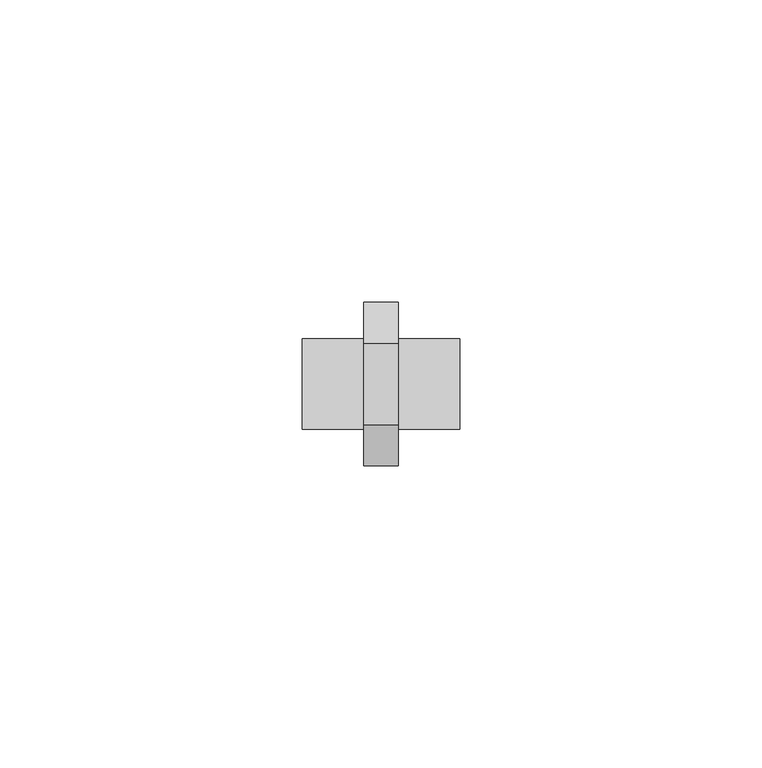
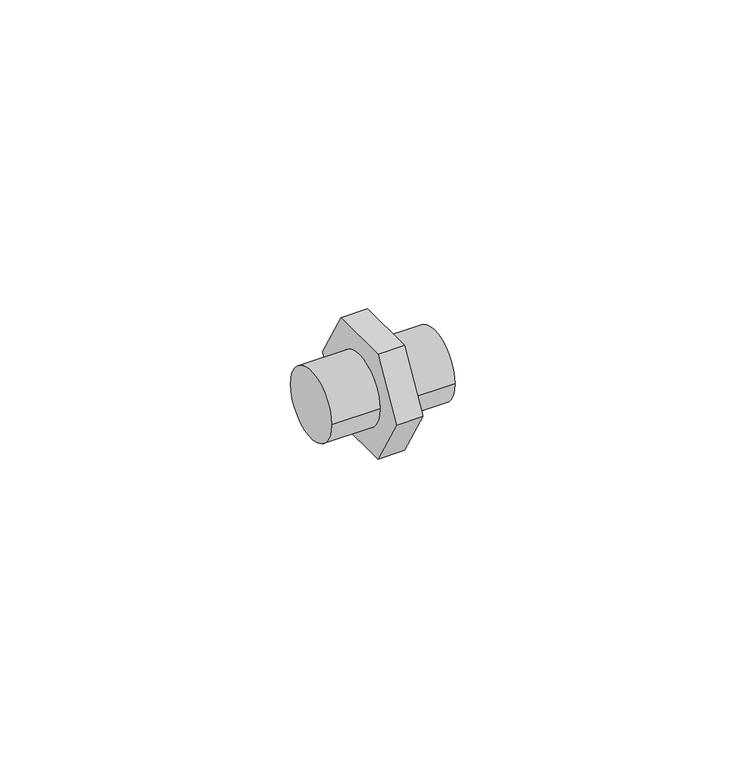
"""IFC4 building model written with IfcOpenShell, lengths in millimetres: pipe fitting geometry, VALTEC_VTi.580.I : VTi.580.I."""

from ifc_helpers import new_model, si_unit, frame, origin, place, context, project, spatial, circle_curve, source, transform, mapped, element, save
from ifc_brep_helpers import plane_surface, cylinder_surface, advanced_brep


def pipe_fitting_dad982d8(model_context):
    return source(origin(), model_context, "Body", "AdvancedBrep", [
        advanced_brep(
        [(-13.0, -7.5, 0.0), (-13.0, 7.5, 0.0), (-2.821, 7.5, 0.0), (-2.821, -7.5, 0.0), (2.821, -6.75, -11.691343), (2.821, 6.75, -11.691343), (2.821, 13.5, 0.0), (2.821, 6.75, 11.691343), (2.821, -6.75, 11.691343), (2.821, -13.5, 0.0), (2.821, 7.5, 0.0), (2.821, -7.5, 0.0), (-2.821, -6.75, -11.691343), (-2.821, -13.5, 0.0), (-2.821, -6.75, 11.691343), (-2.821, 6.75, 11.691343), (-2.821, 13.5, 0.0), (-2.821, 6.75, -11.691343), (13.0, -7.5, 0.0), (13.0, 7.5, 0.0)],
        [
            (0, 1, circle_curve(frame((-13.0, 0.0, 0.0), z_axis=(-1.0, 0.0, 0.0), x_axis=(0.0, 1.0, 0.0)), 7.5)),
            (1, 0, circle_curve(frame((-13.0, 0.0, 0.0), z_axis=(-1.0, 0.0, 0.0), x_axis=(0.0, 1.0, 0.0)), 7.5)),
            (1, 2),
            (2, 3, circle_curve(frame((-2.821, 0.0, 0.0), z_axis=(-1.0, 0.0, 0.0), x_axis=(0.0, 1.0, 0.0)), 7.5)),
            (3, 0),
            (3, 2, circle_curve(frame((-2.821, 0.0, 0.0), z_axis=(-1.0, 0.0, 0.0), x_axis=(0.0, 1.0, 0.0)), 7.5)),
            (4, 5),
            (5, 6),
            (6, 7),
            (7, 8),
            (8, 9),
            (9, 4),
            (10, 11, circle_curve(frame((2.821, 0.0, 0.0), z_axis=(-1.0, 0.0, 0.0), x_axis=(0.0, 1.0, 0.0)), 7.5)),
            (11, 10, circle_curve(frame((2.821, 0.0, 0.0), z_axis=(-1.0, 0.0, 0.0), x_axis=(0.0, 1.0, 0.0)), 7.5)),
            (12, 13),
            (13, 14),
            (14, 15),
            (15, 16),
            (16, 17),
            (17, 12),
            (4, 12),
            (17, 5),
            (16, 6),
            (15, 7),
            (14, 8),
            (13, 9),
            (18, 19, circle_curve(frame((13.0, 0.0, 0.0), z_axis=(1.0, 0.0, 0.0), x_axis=(0.0, 1.0, 0.0)), 7.5)),
            (19, 18, circle_curve(frame((13.0, 0.0, 0.0), z_axis=(1.0, 0.0, 0.0), x_axis=(0.0, 1.0, 0.0)), 7.5)),
            (18, 11),
            (10, 19),
        ],
        [
            plane_surface(frame((-13.0, 7.5, 0.0), z_axis=(-1.0, 0.0, 0.0), x_axis=(0.0, 0.0, -1.0))),
            cylinder_surface(frame((-13.0, 0.0, 0.0), z_axis=(1.0, 0.0, 0.0), x_axis=(0.0, 1.0, 0.0)), 7.5),
            plane_surface(frame((2.821, -6.75, -11.691343), z_axis=(1.0, 0.0, 0.0), x_axis=(0.0, 1.0, 0.0))),
            plane_surface(frame((-2.821, -6.75, -11.691343), z_axis=(-1.0, 0.0, 0.0), x_axis=(0.0, -1.0, 0.0))),
            plane_surface(frame((2.821, -6.75, -11.691343), z_axis=(0.0, 0.0, -1.0), x_axis=(-1.0, 0.0, 0.0))),
            plane_surface(frame((2.821, 6.75, -11.691343), z_axis=(0.0, 0.8660254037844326, -0.5000000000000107), x_axis=(-1.0, 0.0, 0.0))),
            plane_surface(frame((2.821, 13.5, 0.0), z_axis=(0.0, 0.8660254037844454, 0.4999999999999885), x_axis=(-1.0, 0.0, 0.0))),
            plane_surface(frame((2.821, 6.75, 11.691343), z_axis=(0.0, 0.0, 1.0), x_axis=(-1.0, 0.0, 0.0))),
            plane_surface(frame((2.821, -6.75, 11.691343), z_axis=(0.0, -0.866025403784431, 0.5000000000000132), x_axis=(-1.0, 0.0, 0.0))),
            plane_surface(frame((2.821, -13.5, 0.0), z_axis=(0.0, -0.866025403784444, -0.4999999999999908), x_axis=(-1.0, 0.0, 0.0))),
            plane_surface(frame((13.0, 7.5, 0.0), z_axis=(1.0, 0.0, 0.0), x_axis=(0.0, 0.0, 1.0))),
            cylinder_surface(frame((2.821, 0.0, 0.0), z_axis=(1.0, 0.0, 0.0), x_axis=(0.0, 1.0, 0.0)), 7.5),
        ],
        [
            (0, [[1, 2]]),
            (1, [[-2, 3, 4, 5]]),
            (1, [[-1, -5, 6, -3]]),
            (2, [[7, 8, 9, 10, 11, 12], [13, 14]]),
            (3, [[15, 16, 17, 18, 19, 20], [-4, -6]]),
            (4, [[-7, 21, -20, 22]]),
            (5, [[-8, -22, -19, 23]]),
            (6, [[-9, -23, -18, 24]]),
            (7, [[-10, -24, -17, 25]]),
            (8, [[-11, -25, -16, 26]]),
            (9, [[-12, -26, -15, -21]]),
            (10, [[27, 28]]),
            (11, [[-27, 29, -13, 30]]),
            (11, [[-28, -30, -14, -29]]),
        ],
    ),
    ])


if __name__ == "__main__":
    model = new_model("IFC4")
    model_context = context("Model", 3, world=origin())
    ifc_project = project(units=[si_unit("LENGTHUNIT", "METRE", prefix="MILLI")], contexts=[model_context])
    site = spatial("IfcSite", under=ifc_project)
    building = spatial("IfcBuilding", under=site)
    placement = place(None, origin())
    pipe_fitting_shape = pipe_fitting_dad982d8(model_context)
    element("IfcPipeFitting", 1, ObjectType="VALTEC_VTi.580.I : VTi.580.I", at=placement, inside=building, context=model_context, shape_type="MappedRepresentation", body=[
        mapped(pipe_fitting_shape, transform((0.0, 0.0, 0.0), x_axis=(1.0, 0.0, 0.0), y_axis=(0.0, 1.0, 0.0), z_axis=(0.0, 0.0, 1.0))),
    ])
    save(model, "model.ifc")
